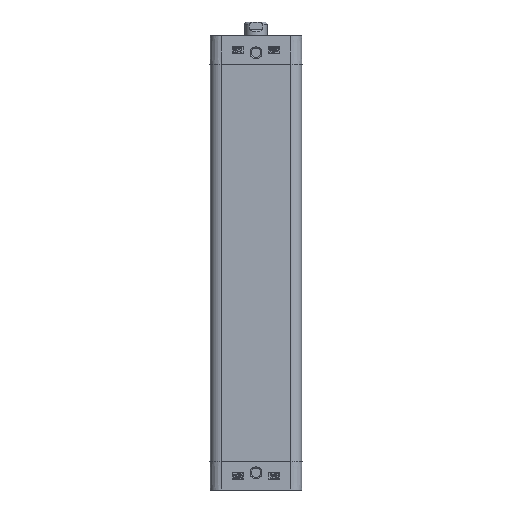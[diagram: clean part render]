
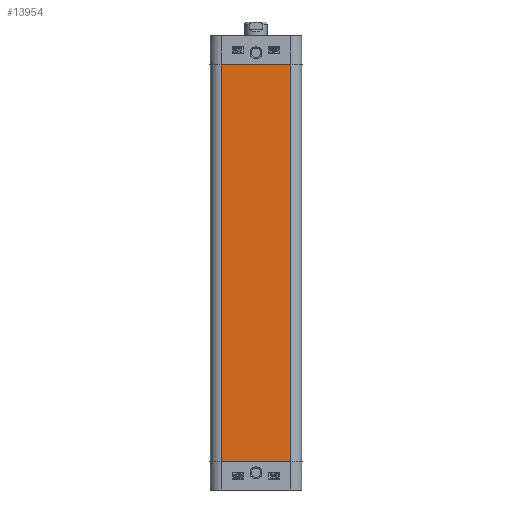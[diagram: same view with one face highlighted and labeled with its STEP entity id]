
A CAD part, left-side view. The second image highlights one B-rep face of the part: STEP entity #13954.
In plain terms, the highlighted planar face has unit normal (-1, 0, 0).
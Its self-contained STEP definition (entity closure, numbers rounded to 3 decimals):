
#773=PLANE('',#14827);
#1544=LINE('',#21197,#2424);
#1572=LINE('',#21310,#2452);
#1654=LINE('',#21530,#2534);
#1655=LINE('',#21532,#2535);
#2424=VECTOR('',#17067,1000.);
#2452=VECTOR('',#17153,1000.);
#2534=VECTOR('',#17399,1000.);
#2535=VECTOR('',#17402,1000.);
#5299=ORIENTED_EDGE('',*,*,#6643,.T.);
#5300=ORIENTED_EDGE('',*,*,#6809,.T.);
#5301=ORIENTED_EDGE('',*,*,#6810,.T.);
#5302=ORIENTED_EDGE('',*,*,#6699,.F.);
#6643=EDGE_CURVE('',#7697,#7698,#1544,.T.);
#6699=EDGE_CURVE('',#7697,#7753,#1572,.T.);
#6809=EDGE_CURVE('',#7698,#7808,#1654,.T.);
#6810=EDGE_CURVE('',#7808,#7753,#1655,.T.);
#7697=VERTEX_POINT('',#21198);
#7698=VERTEX_POINT('',#21199);
#7753=VERTEX_POINT('',#21311);
#7808=VERTEX_POINT('',#21529);
#8898=EDGE_LOOP('',(#5299,#5300,#5301,#5302));
#9638=FACE_BOUND('',#8898,.T.);
#13954=ADVANCED_FACE('',(#9638),#773,.T.);
#14827=AXIS2_PLACEMENT_3D('',#21531,#17400,#17401);
#17067=DIRECTION('',(0.,0.,-1.));
#17153=DIRECTION('',(0.,-1.,0.));
#17399=DIRECTION('',(0.,-1.,0.));
#17400=DIRECTION('',(-1.,0.,0.));
#17401=DIRECTION('',(0.,0.,1.));
#17402=DIRECTION('',(0.,0.,1.));
#21197=CARTESIAN_POINT('',(-20.,164.5,15.));
#21198=CARTESIAN_POINT('',(-20.,164.5,15.));
#21199=CARTESIAN_POINT('',(-20.,164.5,-15.));
#21310=CARTESIAN_POINT('',(-20.,9.5,15.));
#21311=CARTESIAN_POINT('',(-20.,-9.5,15.));
#21529=CARTESIAN_POINT('',(-20.,-9.5,-15.));
#21530=CARTESIAN_POINT('',(-20.,9.5,-15.));
#21531=CARTESIAN_POINT('',(-20.,0.,15.));
#21532=CARTESIAN_POINT('',(-20.,-9.5,-15.));
